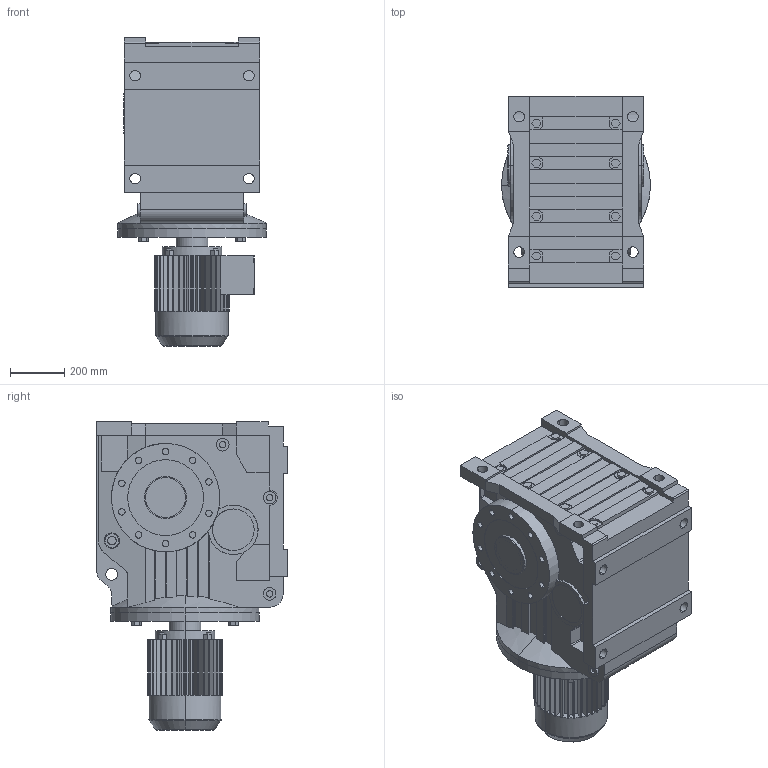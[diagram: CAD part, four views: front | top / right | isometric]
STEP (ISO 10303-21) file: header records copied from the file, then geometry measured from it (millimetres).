
FILE_DESCRIPTION(('Open CASCADE Model'),'2;1');
FILE_NAME('Open CASCADE Shape Model','2018-09-13T11:00:12',('Author'),( 'Open CASCADE'),'Open CASCADE STEP processor 6.3','Open CASCADE 6.3' ,'Unknown');
FILE_SCHEMA(('AUTOMOTIVE_DESIGN_CC2 { 1 2 10303 214 -1 1 5 4 }'));
Length unit declared in the file: millimetre
Products named in the file (4): 39_KA157DV160M-A; KA127‵157_157.step; 萇儂_550-DV160M-433-545-275-230.step; す瑩諾陑粣K_157.step
Assembly tree (3 placements, depth 2):
  39_KA157DV160M-A
    KA127‵157_157.step
    萇儂_550-DV160M-433-545-275-230.step
    す瑩諾陑粣K_157.step
Bounding box: 550 x 705 x 1139 mm (x, y, z)
Volume: 207878855.6 mm3; surface area: 4787608.5 mm2
Topology: 3 solids, 3 shells, 906 faces, 2370 edges, 1545 vertices
Faces by surface type: plane 600, cylinder 296, cone 6, torus 4
Entity records: 64865 total; most frequent: CARTESIAN_POINT 20075, DIRECTION 7623, ORIENTED_EDGE 4740, PCURVE 4740, DEFINITIONAL_REPRESENTATION 4740, LINE 4005, VECTOR 4005, EDGE_CURVE 2370
